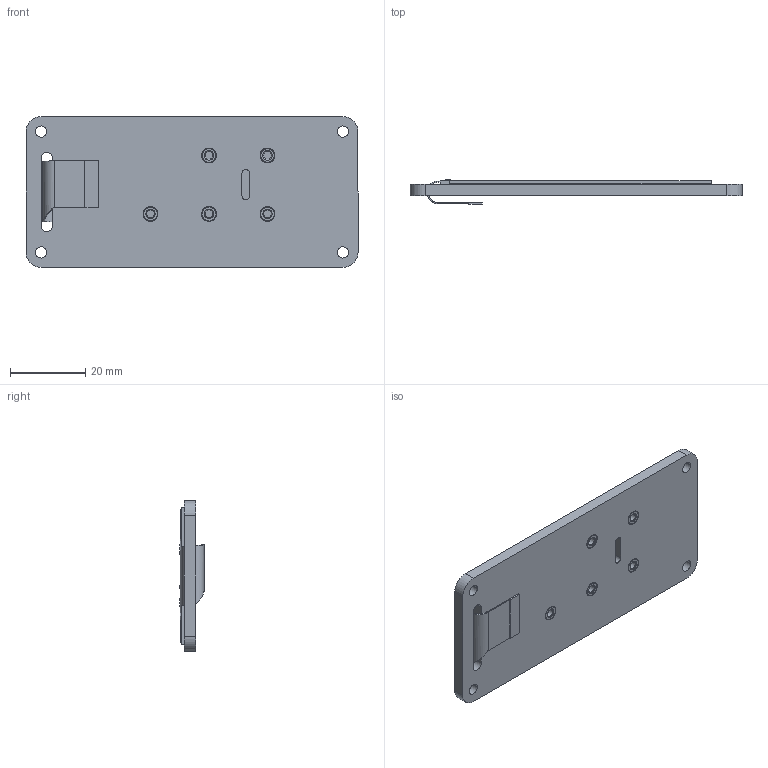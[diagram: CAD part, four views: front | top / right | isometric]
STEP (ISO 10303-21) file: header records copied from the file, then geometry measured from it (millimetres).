
FILE_DESCRIPTION (( 'STEP AP214' ), '1' );
FILE_NAME ('EP2266KS.STEP', '2026-07-06T04:54:29', ( '' ), ( '' ), 'SwSTEP 2.0', 'SolidWorks 2008', '' );
FILE_SCHEMA (( 'AUTOMOTIVE_DESIGN' ));
Length unit declared in the file: millimetre
Products named in the file (4): plate-E2266KS0C3; E2266KS0C3; EP2266KS; BN_1036_1385496
Assembly tree (7 placements, depth 2):
  EP2266KS
    BN_1036_1385496  x5
    plate-E2266KS0C3
    E2266KS0C3
Bounding box: 88 x 6.4 x 40 mm (x, y, z)
Volume: 13415 mm3; surface area: 19626.4 mm2
Topology: 9 solids, 9 shells, 1142 faces, 3226 edges, 2142 vertices
Faces by surface type: cylinder 910, plane 209, cone 20, bspline 3
Entity records: 16018 total; most frequent: CARTESIAN_POINT 3050, DIRECTION 2357, ORIENTED_EDGE 2212, EDGE_CURVE 1106, AXIS2_PLACEMENT_3D 851, VERTEX_POINT 734, LINE 655, VECTOR 655
